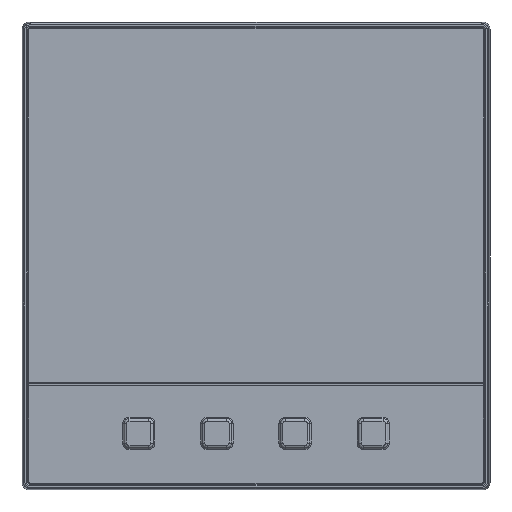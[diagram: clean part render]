
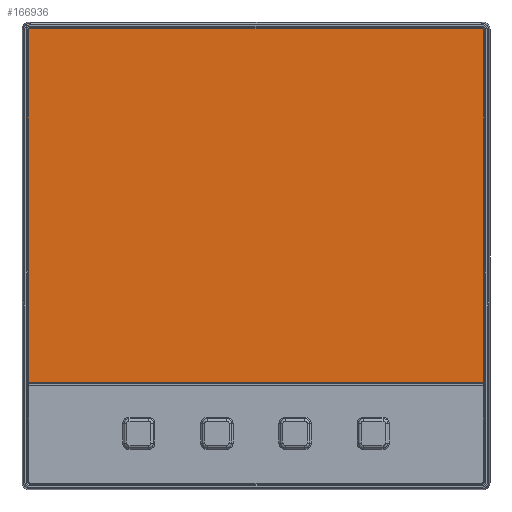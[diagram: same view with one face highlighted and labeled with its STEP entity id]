
A CAD part, top view. The second image highlights one B-rep face of the part: STEP entity #166936.
In plain terms, the highlighted planar face has unit normal (0, 0, 1).
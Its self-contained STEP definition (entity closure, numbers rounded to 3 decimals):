
#166669=CARTESIAN_POINT('',(-46.1,46.1,4.15));
#166670=DIRECTION('',(0.,0.,1.));
#166671=DIRECTION('',(0.,1.,0.));
#166672=AXIS2_PLACEMENT_3D('',#166669,#166670,#166671);
#166677=DIRECTION('',(-1.,0.,0.));
#166678=VECTOR('',#166677,92.2);
#166679=CARTESIAN_POINT('',(46.1,46.6,4.15));
#166680=LINE('',#166679,#166678);
#166684=CARTESIAN_POINT('',(46.1,46.1,4.15));
#166685=DIRECTION('',(0.,0.,1.));
#166686=DIRECTION('',(1.,0.,0.));
#166687=AXIS2_PLACEMENT_3D('',#166684,#166685,#166686);
#166692=DIRECTION('',(0.,1.,0.));
#166693=VECTOR('',#166692,72.05);
#166694=CARTESIAN_POINT('',(46.6,-25.95,4.15));
#166695=LINE('',#166694,#166693);
#166699=DIRECTION('',(1.,0.,0.));
#166700=VECTOR('',#166699,93.2);
#166701=CARTESIAN_POINT('',(-46.6,-25.95,4.15));
#166702=LINE('',#166701,#166700);
#166706=DIRECTION('',(0.,-1.,0.));
#166707=VECTOR('',#166706,72.05);
#166708=CARTESIAN_POINT('',(-46.6,46.1,4.15));
#166709=LINE('',#166708,#166707);
#166773=CARTESIAN_POINT('',(-46.6,-25.95,4.15));
#166774=CARTESIAN_POINT('',(46.6,-25.95,4.15));
#166775=VERTEX_POINT('',#166773);
#166776=VERTEX_POINT('',#166774);
#166781=CARTESIAN_POINT('',(-46.1,46.6,4.15));
#166782=VERTEX_POINT('',#166781);
#166783=CARTESIAN_POINT('',(-46.6,46.1,4.15));
#166784=VERTEX_POINT('',#166783);
#166789=CARTESIAN_POINT('',(46.6,46.1,4.15));
#166790=VERTEX_POINT('',#166789);
#166791=CARTESIAN_POINT('',(46.1,46.6,4.15));
#166792=VERTEX_POINT('',#166791);
#166923=CARTESIAN_POINT('',(0.,0.,4.15));
#166924=DIRECTION('',(0.,0.,1.));
#166925=DIRECTION('',(1.,0.,0.));
#166926=AXIS2_PLACEMENT_3D('',#166923,#166924,#166925);
#166927=PLANE('',#166926);
#166928=ORIENTED_EDGE('',*,*,#166847,.F.);
#166929=ORIENTED_EDGE('',*,*,#166863,.F.);
#166930=ORIENTED_EDGE('',*,*,#166876,.F.);
#166931=ORIENTED_EDGE('',*,*,#166891,.F.);
#166932=ORIENTED_EDGE('',*,*,#166904,.F.);
#166933=ORIENTED_EDGE('',*,*,#166916,.F.);
#166934=EDGE_LOOP('',(#166928,#166929,#166930,#166931,#166932,#166933));
#166935=FACE_OUTER_BOUND('',#166934,.F.);
#166936=ADVANCED_FACE('',(#166935),#166927,.T.);
#166673=CIRCLE('',#166672,0.5);
#166688=CIRCLE('',#166687,0.5);
#166847=EDGE_CURVE('',#166782,#166784,#166673,.T.);
#166863=EDGE_CURVE('',#166792,#166782,#166680,.T.);
#166876=EDGE_CURVE('',#166790,#166792,#166688,.T.);
#166891=EDGE_CURVE('',#166776,#166790,#166695,.T.);
#166904=EDGE_CURVE('',#166775,#166776,#166702,.T.);
#166916=EDGE_CURVE('',#166784,#166775,#166709,.T.);
